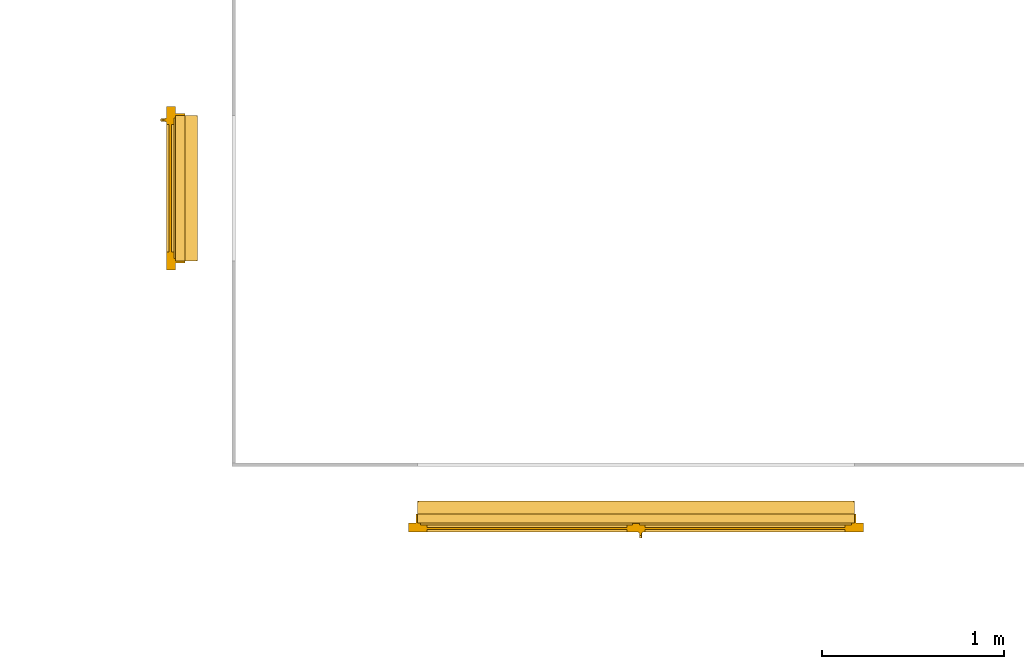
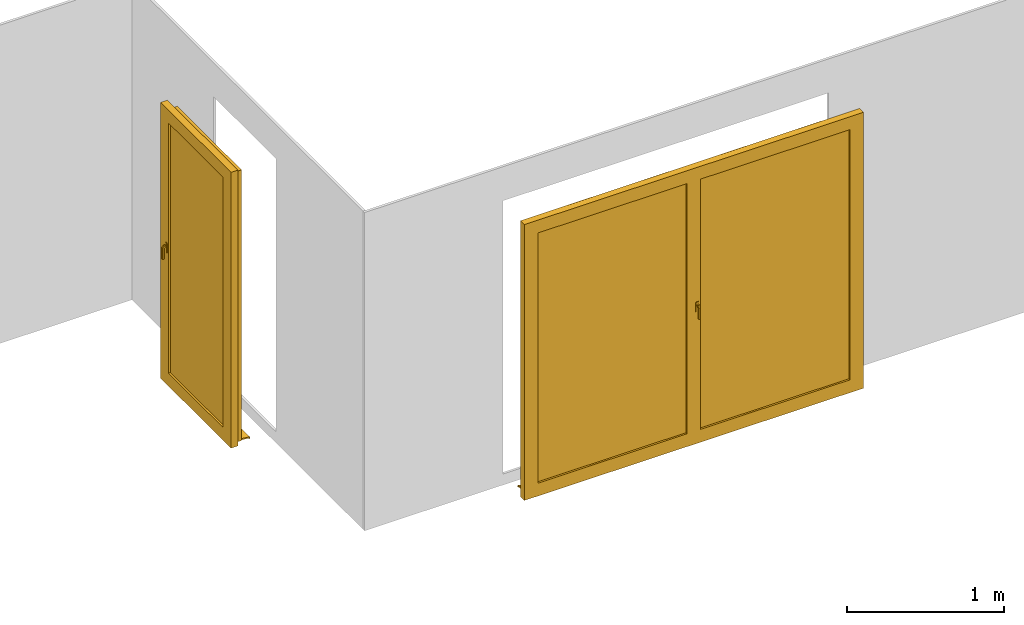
# One storey, part 5 of 6: 2 windows.
"""IFC2X3 building model written with IfcOpenShell, lengths in centimetres."""

from ifc_helpers import new_model, entity, si_unit, converted_unit, derived_unit, direction, frame, origin, place, context, subcontext, project, spatial, faceted_brep, source, transform, mapped, material, material_list, type_object, type_shapes, element, save


model = new_model("IFC2X3")

# Units and contexts
model_context = context("Model", 3, precision=0.001, world=origin(), true_north=direction((6.12303176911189e-17, 1.0)))
body_context = subcontext(model_context, "Body", "Model", "MODEL_VIEW")
ifc_project = project(units=[si_unit("LENGTHUNIT", "METRE", prefix="CENTI"), si_unit("AREAUNIT", "SQUARE_METRE"), si_unit("VOLUMEUNIT", "CUBIC_METRE"), converted_unit("PLANEANGLEUNIT", "DEGREE", entity("IfcRatioMeasure", 0.0174532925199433), si_unit("PLANEANGLEUNIT", "RADIAN"), dimensions=[0, 0, 0, 0, 0, 0, 0]), si_unit("MASSUNIT", "GRAM", prefix="KILO"), derived_unit("MASSDENSITYUNIT", [(si_unit("MASSUNIT", "GRAM", prefix="KILO"), 1), (si_unit("LENGTHUNIT", "METRE"), -3)]), derived_unit("MOMENTOFINERTIAUNIT", [(si_unit("LENGTHUNIT", "METRE"), 4)]), si_unit("TIMEUNIT", "SECOND"), si_unit("FREQUENCYUNIT", "HERTZ"), si_unit("THERMODYNAMICTEMPERATUREUNIT", "DEGREE_CELSIUS"), derived_unit("THERMALTRANSMITTANCEUNIT", [(si_unit("MASSUNIT", "GRAM", prefix="KILO"), 1), (si_unit("THERMODYNAMICTEMPERATUREUNIT", "KELVIN"), -1), (si_unit("TIMEUNIT", "SECOND"), -3)]), derived_unit("VOLUMETRICFLOWRATEUNIT", [(si_unit("LENGTHUNIT", "METRE"), 3), (si_unit("TIMEUNIT", "SECOND"), -1)]), si_unit("ELECTRICCURRENTUNIT", "AMPERE"), si_unit("ELECTRICVOLTAGEUNIT", "VOLT"), si_unit("POWERUNIT", "WATT"), si_unit("FORCEUNIT", "NEWTON", prefix="KILO"), si_unit("ILLUMINANCEUNIT", "LUX"), si_unit("LUMINOUSFLUXUNIT", "LUMEN"), si_unit("LUMINOUSINTENSITYUNIT", "CANDELA"), derived_unit("USERDEFINED", [(si_unit("MASSUNIT", "GRAM", prefix="KILO"), -1), (si_unit("LENGTHUNIT", "METRE"), -2), (si_unit("TIMEUNIT", "SECOND"), 3), (si_unit("LUMINOUSFLUXUNIT", "LUMEN"), 1)]), derived_unit("LINEARVELOCITYUNIT", [(si_unit("LENGTHUNIT", "METRE"), 1), (si_unit("TIMEUNIT", "SECOND"), -1)]), si_unit("PRESSUREUNIT", "PASCAL"), derived_unit("USERDEFINED", [(si_unit("LENGTHUNIT", "METRE"), -2), (si_unit("MASSUNIT", "GRAM", prefix="KILO"), 1), (si_unit("TIMEUNIT", "SECOND"), -2)]), derived_unit("LINEARFORCEUNIT", [(si_unit("MASSUNIT", "GRAM", prefix="KILO"), 1), (si_unit("LENGTHUNIT", "METRE"), 1), (si_unit("TIMEUNIT", "SECOND"), -2), (si_unit("LENGTHUNIT", "METRE"), -1)]), derived_unit("PLANARFORCEUNIT", [(si_unit("MASSUNIT", "GRAM", prefix="KILO"), 1), (si_unit("LENGTHUNIT", "METRE"), 1), (si_unit("TIMEUNIT", "SECOND"), -2), (si_unit("LENGTHUNIT", "METRE"), -2)])], contexts=[model_context])

# Site, building, storey
site_placement = place(None, origin())
site = spatial("IfcSite", under=ifc_project, at=site_placement, Name="Surface", CompositionType="ELEMENT")
building_placement = place(site_placement, origin())
building = spatial("IfcBuilding", under=site, at=building_placement, CompositionType="ELEMENT")
storey_placement = place(building_placement, origin())
storey = spatial("IfcBuildingStorey", under=building, at=storey_placement, Name="1_Rez-de-chaussée", CompositionType="ELEMENT", Elevation=-7.93413063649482e-11)

# Windows
ifc_material_1 = material(Name="Fenêtre - Poignée")
ifc_material_2 = material(Name="Fenêtre - Appui")
ifc_material_3 = material(Name="Fenêtre - Cadre")
ifc_material_4 = material(Name="Fenêtre - Vitrage")
ifc_material_list_1 = material_list([ifc_material_1, ifc_material_2, ifc_material_3, ifc_material_4])
ifc_material_list_2 = material_list([ifc_material_1, ifc_material_3, ifc_material_2, ifc_material_4])
window_style_1 = type_object("IfcWindowStyle", Name="PF 2 Vantaux - Droits blanc:240/210", ConstructionType="NOTDEFINED", OperationType="DOUBLE_PANEL_VERTICAL", ParameterTakesPrecedence=False, Sizeable=False, material=ifc_material_list_2)
shared_shape_1 = source(origin(), body_context, "Body", "Brep", [
    faceted_brep([(128.064600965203, -58.6000000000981, 112.203392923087), (128.203392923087, -58.6000000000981, 112.064600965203), (128.203392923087, -58.6000000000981, 110.933230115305), (128.066769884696, -58.6000000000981, 110.796607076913), (126.933230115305, -58.6000000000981, 110.796607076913), (126.796607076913, -58.6000000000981, 110.933230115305), (126.796607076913, -58.6000000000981, 112.064600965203), (126.935399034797, -58.6000000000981, 112.203392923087), (128.064600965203, -59.891354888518, 112.203392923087), (128.203392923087, -59.8338653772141, 112.064600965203), (128.203392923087, -61.1646009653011, 110.733865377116), (128.203392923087, -61.1646009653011, 102.0), (128.203392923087, -60.0332301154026, 102.0), (128.203392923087, -60.0332301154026, 110.265236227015), (128.203392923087, -59.3652362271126, 110.933230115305), (128.066769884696, -59.3086451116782, 110.796607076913), (126.933230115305, -59.3086451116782, 110.796607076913), (126.796607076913, -59.3652362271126, 110.933230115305), (126.796607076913, -60.0332301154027, 110.265236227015), (126.796607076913, -60.0332301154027, 102.0), (126.796607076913, -61.1646009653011, 102.0), (126.796607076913, -61.1646009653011, 110.733865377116), (126.796607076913, -59.8338653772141, 112.064600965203), (126.935399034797, -59.891354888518, 112.203392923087), (128.064600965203, -61.3033929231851, 110.79135488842), (128.066769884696, -59.8966070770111, 110.20864511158), (126.933230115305, -59.8966070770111, 110.20864511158), (126.935399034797, -61.3033929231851, 110.79135488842), (128.064600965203, -61.3033929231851, 102.0), (126.935399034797, -61.3033929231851, 102.0), (126.933230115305, -59.8966070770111, 102.0), (128.066769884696, -59.8966070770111, 102.0)], [[[0, 1, 2, 3, 4, 5, 6, 7]], [[1, 0, 8, 9]], [[2, 1, 9, 10, 11, 12, 13, 14]], [[3, 2, 14, 15]], [[4, 3, 15, 16]], [[5, 4, 16, 17]], [[6, 5, 17, 18, 19, 20, 21, 22]], [[7, 6, 22, 23]], [[0, 7, 23, 8]], [[9, 8, 24, 10]], [[15, 14, 13, 25]], [[16, 15, 25, 26]], [[17, 16, 26, 18]], [[23, 22, 21, 27]], [[8, 23, 27, 24]], [[28, 29, 20, 19, 30, 31, 12, 11]], [[10, 24, 28, 11]], [[25, 13, 12, 31]], [[26, 25, 31, 30]], [[18, 26, 30, 19]], [[27, 21, 20, 29]], [[24, 27, 29, 28]]]),
    faceted_brep([(128.200000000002, -58.6000000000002, 114.0), (126.8, -58.6000000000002, 114.0), (126.3, -58.6000000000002, 113.5), (126.3, -58.6000000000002, 106.499999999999), (126.799999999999, -58.6000000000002, 106.0), (128.200000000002, -58.6000000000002, 106.0), (128.7, -58.6000000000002, 106.499999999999), (128.7, -58.6000000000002, 113.5), (128.200000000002, -58.0, 114.0), (128.7, -58.0, 113.5), (128.7, -58.0, 106.499999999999), (128.200000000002, -58.0, 106.0), (126.799999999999, -58.0, 106.0), (126.3, -58.0, 106.499999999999), (126.3, -58.0, 113.5), (126.8, -58.0, 114.0)], [[[0, 1, 2, 3, 4, 5, 6, 7]], [[8, 9, 10, 11, 12, 13, 14, 15]], [[1, 0, 8, 15]], [[2, 1, 15, 14]], [[3, 2, 14, 13]], [[4, 3, 13, 12]], [[5, 4, 12, 11]], [[6, 5, 11, 10]], [[7, 6, 10, 9]], [[0, 7, 9, 8]]]),
    faceted_brep([(245.0, -40.9971122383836, 3.0792795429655), (245.0, -49.4999999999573, 3.97296905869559), (245.0, -49.4999999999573, 5.0), (245.0, -50.0, 5.0), (245.0, -50.0, 3.49999999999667), (245.0, -41.4971122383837, 2.60631048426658), (245.0, -41.4971122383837, 2.02401141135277), (245.0, -40.9971122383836, 1.97145929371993), (5.0, -40.9971122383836, 3.0792795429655), (5.0, -40.9971122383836, 1.97145929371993), (5.0, -41.4971122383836, 2.02401141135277), (5.0, -41.4971122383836, 2.60631048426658), (5.0, -50.0, 3.49999999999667), (5.0, -50.0, 5.0), (5.0, -49.4999999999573, 5.0), (5.0, -49.4999999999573, 3.97296905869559)], [[[0, 1, 2, 3, 4, 5, 6, 7]], [[8, 9, 10, 11, 12, 13, 14, 15]], [[1, 0, 8, 15]], [[2, 1, 15, 14]], [[3, 2, 14, 13]], [[4, 3, 13, 12]], [[5, 4, 12, 11]], [[6, 5, 11, 10]], [[7, 6, 10, 9]], [[0, 7, 9, 8]]]),
    faceted_brep([(5.0, -40.9971122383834, 3.22187206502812), (5.0, -40.9971122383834, 3.0792795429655), (5.0, -49.4999999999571, 3.97296905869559), (5.0, -49.4999999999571, 4.47572319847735), (5.0, -41.3553008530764, 3.61968082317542), (5.0, -41.0998543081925, 3.48952430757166), (5.50000000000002, -49.4999999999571, 4.47572319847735), (5.50000000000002, -49.4999999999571, 3.97296905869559), (5.50000000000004, -40.9971122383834, 3.0792795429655), (5.50000000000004, -40.9971122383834, 3.22187206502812), (5.50000000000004, -41.0998543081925, 3.48952430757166), (5.50000000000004, -41.3553008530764, 3.61968082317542)], [[[0, 1, 2, 3, 4, 5]], [[6, 7, 8, 9, 10, 11]], [[2, 1, 8, 7]], [[3, 2, 7, 6]], [[4, 3, 6, 11]], [[4, 11, 10, 5]], [[10, 9, 0, 5]], [[1, 0, 9, 8]]]),
    faceted_brep([(244.5, -40.9971122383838, 3.22187206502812), (244.5, -40.9971122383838, 3.0792795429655), (244.5, -49.4999999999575, 3.97296905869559), (244.5, -49.4999999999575, 4.47572319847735), (244.5, -41.3553008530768, 3.61968082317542), (244.5, -41.0998543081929, 3.48952430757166), (245.0, -49.4999999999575, 4.47572319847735), (245.0, -49.4999999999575, 3.97296905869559), (245.0, -40.9971122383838, 3.0792795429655), (245.0, -40.9971122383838, 3.22187206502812), (245.0, -41.0998543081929, 3.48952430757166), (245.0, -41.3553008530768, 3.61968082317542)], [[[0, 1, 2, 3, 4, 5]], [[6, 7, 8, 9, 10, 11]], [[2, 1, 8, 7]], [[3, 2, 7, 6]], [[4, 3, 6, 11]], [[4, 11, 10, 5]], [[10, 9, 0, 5]], [[1, 0, 9, 8]]]),
    faceted_brep([(125.0, -54.0, 213.5), (125.0, -58.0, 213.5), (125.0, -58.0, 8.50000000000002), (125.0, -54.0, 8.50000000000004), (5.0, -58.0, 8.50000000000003), (5.0, -54.0, 8.50000000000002), (5.0, -58.0, 213.5), (10.0, -58.0, 13.5), (10.0, -58.0, 208.5), (120.0, -58.0, 208.5), (120.0, -58.0, 13.5), (5.0, -54.0, 213.5), (120.0, -54.0, 13.5), (120.0, -54.0, 208.5), (10.0, -54.0, 208.5), (10.0, -54.0, 13.5)], [[[0, 1, 2, 3]], [[3, 2, 4, 5]], [[2, 1, 6, 4], [7, 8, 9, 10]], [[5, 4, 6, 11]], [[5, 11, 0, 3], [12, 13, 14, 15]], [[9, 13, 12, 10]], [[10, 12, 15, 7]], [[7, 15, 14, 8]], [[11, 6, 1, 0]], [[8, 14, 13, 9]]]),
    faceted_brep([(130.0, -55.4000000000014, 13.5), (130.0, -55.4000000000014, 208.5), (240.0, -55.4000000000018, 208.5), (240.0, -55.4000000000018, 13.5), (130.0, -56.6000000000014, 13.5), (130.0, -56.6000000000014, 208.5), (240.0, -56.6000000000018, 208.5), (240.0, -56.6000000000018, 13.5)], [[[0, 1, 2, 3]], [[1, 0, 4, 5]], [[3, 2, 6, 7]], [[0, 3, 7, 4]], [[2, 1, 5, 6]], [[4, 7, 6, 5]]]),
    faceted_brep([(120.0, -55.4000000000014, 13.5), (120.0, -55.4000000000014, 208.5), (120.0, -56.6000000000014, 208.5), (120.0, -56.6000000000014, 13.5), (10.0, -55.400000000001, 13.5), (10.0, -56.600000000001, 13.5), (10.0, -55.400000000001, 208.5), (10.0, -56.600000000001, 208.5)], [[[0, 1, 2, 3]], [[4, 0, 3, 5]], [[6, 4, 5, 7]], [[7, 5, 3, 2]], [[1, 6, 7, 2]], [[6, 1, 0, 4]]]),
    faceted_brep([(130.0, -54.0, 208.5), (130.0, -58.0, 208.5), (130.0, -58.0, 13.5), (130.0, -54.0, 13.5), (240.0, -58.0, 13.5000000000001), (240.0, -54.0, 13.5), (240.0, -58.0, 208.5), (245.0, -58.0, 8.50000000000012), (245.0, -58.0, 213.5), (125.0, -58.0, 213.5), (125.0, -58.0, 8.5000000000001), (240.0, -54.0, 208.5), (125.0, -54.0, 8.5000000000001), (125.0, -54.0, 213.5), (245.0, -54.0, 213.5), (245.0, -54.0, 8.5000000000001)], [[[0, 1, 2, 3]], [[3, 2, 4, 5]], [[2, 1, 6, 4], [7, 8, 9, 10]], [[5, 4, 6, 11]], [[5, 11, 0, 3], [12, 13, 14, 15]], [[9, 13, 12, 10]], [[10, 12, 15, 7]], [[7, 15, 14, 8]], [[11, 6, 1, 0]], [[8, 14, 13, 9]]], outer=[[True], [True], [False, True], [True], [False, True], [True], [True], [True], [True], [True]]),
    faceted_brep([(0.0, -58.0, 3.50000000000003), (0.0, -53.0, 3.50000000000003), (5.0, -53.0, 3.50000000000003), (5.0, -50.0, 3.50000000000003), (245.0, -50.0, 3.50000000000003), (245.0, -53.0, 3.50000000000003), (250.0, -53.0, 3.50000000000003), (250.0, -58.0, 3.50000000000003), (0.0, -58.0, 218.5), (0.0, -53.0, 218.5), (250.0, -53.0, 218.5), (245.0, -53.0, 7.43761424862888), (5.0, -53.0, 7.43761424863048), (6.49999999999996, -53.0, 212.0), (6.49999999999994, -53.0, 10.0), (243.5, -53.0, 10.0), (243.5, -53.0, 212.0), (5.0, -48.0, 6.0978682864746), (5.0, -48.0, 4.50000000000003), (5.0, -49.0, 4.50000000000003), (5.0, -49.0, 5.0), (5.0, -50.0, 5.0), (245.0, -50.0, 5.0), (245.0, -49.0, 5.0), (245.0, -49.0, 4.50000000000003), (245.0, -48.0, 4.50000000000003), (245.0, -48.0, 6.0978682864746), (250.0, -58.0, 218.5), (245.0, -58.0, 213.5), (245.0, -58.0, 8.50000000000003), (5.0, -58.0, 8.50000000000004), (5.0, -58.0, 213.5), (6.49999999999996, -54.0, 212.0), (6.49999999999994, -54.0, 10.0), (243.5, -54.0, 10.0), (243.5, -54.0, 212.0), (245.0, -54.0, 213.5), (5.0, -54.0, 213.5), (5.0, -54.0, 8.50000000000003), (245.0, -54.0, 8.50000000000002)], [[[0, 1, 2, 3, 4, 5, 6, 7]], [[1, 0, 8, 9]], [[1, 9, 10, 6, 5, 11, 12, 2], [13, 14, 15, 16]], [[12, 17, 18, 19, 20, 21, 3, 2]], [[3, 21, 22, 4]], [[4, 22, 23, 24, 25, 26, 11, 5]], [[6, 10, 27, 7]], [[0, 7, 27, 8], [28, 29, 30, 31]], [[13, 32, 33, 14]], [[33, 34, 15, 14]], [[35, 16, 15, 34]], [[17, 12, 11, 26]], [[36, 37, 38, 39], [32, 35, 34, 33]], [[38, 37, 31, 30]], [[30, 29, 39, 38]], [[28, 36, 39, 29]], [[18, 17, 26, 25]], [[19, 18, 25, 24]], [[20, 19, 24, 23]], [[21, 20, 23, 22]], [[13, 16, 35, 32]], [[37, 36, 28, 31]], [[10, 9, 8, 27]]]),
    faceted_brep([(5.0, -48.0, 3.50000000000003), (5.0, -53.0, 3.50000000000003), (4.0, -53.0, 3.50000000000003), (4.0, -48.0, 3.50000000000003), (5.0, -48.0, 213.5), (5.0, -53.0, 213.5), (245.0, -53.0, 213.5), (245.0, -53.0, 3.5), (246.0, -53.0, 3.50000000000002), (246.0, -53.0, 214.5), (4.0, -53.0, 214.5), (4.0, -48.0, 214.5), (246.0, -48.0, 214.5), (246.0, -48.0, 3.5), (245.0, -48.0, 3.50000000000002), (245.0, -48.0, 213.5)], [[[0, 1, 2, 3]], [[1, 0, 4, 5]], [[2, 1, 5, 6, 7, 8, 9, 10]], [[3, 2, 10, 11]], [[0, 3, 11, 12, 13, 14, 15, 4]], [[6, 15, 14, 7]], [[14, 13, 8, 7]], [[12, 9, 8, 13]], [[5, 4, 15, 6]], [[11, 10, 9, 12]]]),
    faceted_brep([(127.0, -53.2000000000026, 212.0), (123.0, -53.2000000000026, 212.0), (123.0, -54.0, 212.0), (127.0, -54.0, 212.0), (127.0, -53.2000000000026, 10.0), (127.0, -54.0, 10.0), (123.0, -54.0, 10.0), (123.0, -53.2000000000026, 10.0)], [[[0, 1, 2, 3]], [[4, 5, 6, 7]], [[1, 0, 4, 7]], [[2, 1, 7, 6]], [[3, 2, 6, 5]], [[0, 3, 5, 4]]]),
])
type_shapes(window_style_1, [shared_shape_1])
window_1_placement = place(storey_placement, frame((-1295.17726031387, 743.992317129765, 0.0)))
element("IfcWindow", 1, at=window_1_placement, inside=storey, type_object=window_style_1, material=ifc_material_list_1, Name="PF 2 Vantaux - Droits blanc:240/210", ObjectType="PF 2 Vantaux - Droits blanc:240/210", OverallHeight=221.5, OverallWidth=250.0, context=body_context, shape_type="MappedRepresentation", body=[
    mapped(shared_shape_1, transform((0.0, 0.0, 0.0), scale=1.0)),
])
ifc_material_list_3 = material_list([ifc_material_1, ifc_material_2, ifc_material_4, ifc_material_3])
ifc_material_list_4 = material_list([ifc_material_1, ifc_material_2, ifc_material_3, ifc_material_4])
window_style_2 = type_object("IfcWindowStyle", Name="PF 1 Vantail - Droite blanc:80/210", ConstructionType="NOTDEFINED", OperationType="SINGLE_PANEL", ParameterTakesPrecedence=False, Sizeable=False, material=ifc_material_list_4)
shared_shape_2 = source(origin(), body_context, "Body", "Brep", [
    faceted_brep([(8.06460096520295, -58.600000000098, 112.203392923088), (8.20339292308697, -58.600000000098, 112.064600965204), (8.20339292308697, -58.600000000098, 110.933230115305), (8.06676988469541, -58.600000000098, 110.796607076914), (6.93323011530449, -58.600000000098, 110.796607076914), (6.79660707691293, -58.600000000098, 110.933230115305), (6.79660707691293, -58.600000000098, 112.064600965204), (6.93539903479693, -58.600000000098, 112.203392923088), (8.06460096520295, -59.8913548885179, 112.203392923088), (8.20339292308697, -59.833865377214, 112.064600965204), (8.20339292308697, -61.164600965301, 110.733865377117), (8.20339292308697, -61.164600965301, 102.0), (8.20339292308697, -60.0332301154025, 102.0), (8.20339292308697, -60.0332301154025, 110.265236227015), (8.20339292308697, -59.3652362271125, 110.933230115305), (8.06676988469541, -59.3086451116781, 110.796607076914), (6.93323011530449, -59.3086451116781, 110.796607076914), (6.79660707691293, -59.3652362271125, 110.933230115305), (6.79660707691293, -60.0332301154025, 110.265236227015), (6.79660707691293, -60.0332301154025, 102.0), (6.79660707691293, -61.164600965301, 102.0), (6.79660707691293, -61.164600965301, 110.733865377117), (6.79660707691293, -59.833865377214, 112.064600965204), (6.93539903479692, -59.8913548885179, 112.203392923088), (8.06460096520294, -61.303392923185, 110.791354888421), (8.06676988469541, -59.8966070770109, 110.208645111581), (6.93323011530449, -59.8966070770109, 110.208645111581), (6.93539903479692, -61.303392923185, 110.791354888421), (8.06460096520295, -61.303392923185, 102.0), (6.93539903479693, -61.303392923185, 102.0), (6.93323011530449, -59.8966070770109, 102.0), (8.06676988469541, -59.8966070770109, 102.0)], [[[0, 1, 2, 3, 4, 5, 6, 7]], [[1, 0, 8, 9]], [[2, 1, 9, 10, 11, 12, 13, 14]], [[3, 2, 14, 15]], [[4, 3, 15, 16]], [[5, 4, 16, 17]], [[6, 5, 17, 18, 19, 20, 21, 22]], [[7, 6, 22, 23]], [[0, 7, 23, 8]], [[9, 8, 24, 10]], [[15, 14, 13, 25]], [[16, 15, 25, 26]], [[17, 16, 26, 18]], [[23, 22, 21, 27]], [[8, 23, 27, 24]], [[28, 29, 20, 19, 30, 31, 12, 11]], [[10, 24, 28, 11]], [[25, 13, 12, 31]], [[26, 25, 31, 30]], [[18, 26, 30, 19]], [[27, 21, 20, 29]], [[24, 27, 29, 28]]]),
    faceted_brep([(8.20000000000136, -58.6000000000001, 114.0), (6.79999999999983, -58.6000000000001, 114.0), (6.29999999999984, -58.6000000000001, 113.500000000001), (6.29999999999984, -58.6000000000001, 106.499999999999), (6.79999999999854, -58.6000000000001, 106.0), (8.20000000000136, -58.6000000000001, 106.0), (8.69999999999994, -58.6000000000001, 106.499999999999), (8.69999999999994, -58.6000000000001, 113.500000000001), (8.20000000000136, -58.0, 114.0), (8.69999999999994, -58.0, 113.500000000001), (8.69999999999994, -58.0, 106.499999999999), (8.20000000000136, -58.0, 106.0), (6.79999999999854, -58.0, 106.0), (6.29999999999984, -58.0, 106.499999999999), (6.29999999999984, -58.0, 113.500000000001), (6.79999999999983, -58.0, 114.0)], [[[0, 1, 2, 3, 4, 5, 6, 7]], [[8, 9, 10, 11, 12, 13, 14, 15]], [[1, 0, 8, 15]], [[2, 1, 15, 14]], [[3, 2, 14, 13]], [[4, 3, 13, 12]], [[5, 4, 12, 11]], [[6, 5, 11, 10]], [[7, 6, 10, 9]], [[0, 7, 9, 8]]]),
    faceted_brep([(85.0, -40.9971122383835, 3.07927954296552), (85.0, -49.4999999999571, 3.97296905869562), (85.0, -49.4999999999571, 5.0), (85.0, -50.0, 5.0), (85.0, -50.0, 3.4999999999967), (85.0, -41.4971122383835, 2.60631048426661), (85.0, -41.4971122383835, 2.0240114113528), (85.0, -40.9971122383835, 1.97145929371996), (5.0, -40.9971122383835, 3.07927954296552), (5.0, -40.9971122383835, 1.97145929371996), (5.0, -41.4971122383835, 2.0240114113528), (5.0, -41.4971122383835, 2.60631048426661), (5.0, -50.0, 3.4999999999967), (5.0, -50.0, 5.0), (5.0, -49.4999999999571, 5.0), (5.0, -49.4999999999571, 3.97296905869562)], [[[0, 1, 2, 3, 4, 5, 6, 7]], [[8, 9, 10, 11, 12, 13, 14, 15]], [[1, 0, 8, 15]], [[2, 1, 15, 14]], [[3, 2, 14, 13]], [[4, 3, 13, 12]], [[5, 4, 12, 11]], [[6, 5, 11, 10]], [[7, 6, 10, 9]], [[0, 7, 9, 8]]]),
    faceted_brep([(5.0, -40.9971122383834, 3.22187206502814), (5.0, -40.9971122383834, 3.07927954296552), (5.0, -49.4999999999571, 3.97296905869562), (5.0, -49.4999999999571, 4.47572319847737), (5.0, -41.3553008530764, 3.61968082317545), (5.0, -41.0998543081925, 3.48952430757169), (5.49999999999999, -49.4999999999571, 4.47572319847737), (5.49999999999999, -49.4999999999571, 3.97296905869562), (5.50000000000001, -40.9971122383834, 3.07927954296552), (5.50000000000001, -40.9971122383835, 3.22187206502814), (5.50000000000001, -41.0998543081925, 3.48952430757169), (5.50000000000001, -41.3553008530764, 3.61968082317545)], [[[0, 1, 2, 3, 4, 5]], [[6, 7, 8, 9, 10, 11]], [[2, 1, 8, 7]], [[3, 2, 7, 6]], [[4, 3, 6, 11]], [[4, 11, 10, 5]], [[10, 9, 0, 5]], [[1, 0, 9, 8]]]),
    faceted_brep([(84.5, -40.9971122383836, 3.22187206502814), (84.5, -40.9971122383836, 3.07927954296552), (84.5, -49.4999999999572, 3.97296905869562), (84.5, -49.4999999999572, 4.47572319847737), (84.5, -41.3553008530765, 3.61968082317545), (84.5, -41.0998543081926, 3.48952430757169), (85.0, -49.4999999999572, 4.47572319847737), (85.0, -49.4999999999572, 3.97296905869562), (85.0, -40.9971122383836, 3.07927954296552), (85.0, -40.9971122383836, 3.22187206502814), (85.0, -41.0998543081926, 3.48952430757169), (85.0, -41.3553008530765, 3.61968082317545)], [[[0, 1, 2, 3, 4, 5]], [[6, 7, 8, 9, 10, 11]], [[2, 1, 8, 7]], [[3, 2, 7, 6]], [[4, 3, 6, 11]], [[4, 11, 10, 5]], [[10, 9, 0, 5]], [[1, 0, 9, 8]]]),
    faceted_brep([(10.0, -55.4000000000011, 13.5), (10.0, -55.4000000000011, 208.5), (80.0, -55.4000000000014, 208.5), (80.0, -55.4000000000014, 13.5), (10.0, -56.6000000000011, 13.5), (10.0, -56.6000000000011, 208.5), (80.0, -56.6000000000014, 208.5), (80.0, -56.6000000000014, 13.5)], [[[0, 1, 2, 3]], [[1, 0, 4, 5]], [[3, 2, 6, 7]], [[0, 3, 7, 4]], [[4, 7, 6, 5]], [[2, 1, 5, 6]]]),
    faceted_brep([(10.0, -54.0, 208.5), (10.0, -58.0, 208.5), (10.0, -58.0, 13.5), (10.0, -54.0, 13.5), (80.0, -58.0, 13.5), (80.0, -54.0, 13.5), (80.0, -58.0, 208.5), (85.0, -58.0, 8.50000000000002), (85.0, -58.0, 213.5), (5.0, -58.0, 213.5), (5.0, -58.0, 8.50000000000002), (80.0, -54.0, 208.5), (5.0, -54.0, 8.50000000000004), (5.0, -54.0, 213.5), (85.0, -54.0, 213.5), (85.0, -54.0, 8.50000000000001)], [[[0, 1, 2, 3]], [[3, 2, 4, 5]], [[2, 1, 6, 4], [7, 8, 9, 10]], [[5, 4, 6, 11]], [[5, 11, 0, 3], [12, 13, 14, 15]], [[9, 13, 12, 10]], [[10, 12, 15, 7]], [[7, 15, 14, 8]], [[11, 6, 1, 0]], [[8, 14, 13, 9]]], outer=[[True], [True], [False, True], [True], [False, True], [True], [True], [True], [True], [True]]),
    faceted_brep([(0.0, -58.0, 3.5), (0.0, -53.0, 3.5), (5.0, -53.0, 3.5), (5.0, -50.0, 3.5), (85.0, -50.0, 3.5), (85.0, -53.0, 3.5), (90.0, -53.0, 3.5), (90.0, -58.0, 3.5), (0.0, -58.0, 218.5), (0.0, -53.0, 218.5), (90.0, -53.0, 218.5), (85.0, -53.0, 7.43761424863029), (5.0, -53.0, 7.43761424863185), (6.49999999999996, -53.0, 212.0), (6.49999999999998, -53.0, 10.0), (83.5, -53.0, 10.0), (83.4999999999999, -53.0, 212.0), (5.0, -48.0, 6.09786828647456), (5.0, -48.0, 4.50000000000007), (5.0, -49.0, 4.50000000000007), (5.0, -49.0, 5.0), (5.0, -50.0, 5.0), (85.0, -50.0, 5.0), (85.0, -49.0, 5.0), (85.0, -49.0, 4.50000000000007), (85.0, -48.0, 4.50000000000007), (85.0, -48.0, 6.09786828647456), (90.0, -58.0, 218.5), (85.0, -58.0, 213.5), (85.0, -58.0, 8.5), (5.0, -58.0, 8.50000000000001), (5.0, -58.0, 213.5), (6.49999999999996, -54.0, 212.0), (6.49999999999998, -54.0, 10.0), (83.5, -54.0, 10.0), (83.5, -54.0, 212.0), (85.0, -54.0, 213.5), (5.0, -54.0, 213.5), (5.0, -54.0, 8.5), (85.0, -54.0, 8.49999999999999)], [[[0, 1, 2, 3, 4, 5, 6, 7]], [[1, 0, 8, 9]], [[1, 9, 10, 6, 5, 11, 12, 2], [13, 14, 15, 16]], [[12, 17, 18, 19, 20, 21, 3, 2]], [[3, 21, 22, 4]], [[4, 22, 23, 24, 25, 26, 11, 5]], [[6, 10, 27, 7]], [[0, 7, 27, 8], [28, 29, 30, 31]], [[13, 32, 33, 14]], [[33, 34, 15, 14]], [[35, 16, 15, 34]], [[17, 12, 11, 26]], [[36, 37, 38, 39], [32, 35, 34, 33]], [[38, 37, 31, 30]], [[30, 29, 39, 38]], [[28, 36, 39, 29]], [[18, 17, 26, 25]], [[19, 18, 25, 24]], [[20, 19, 24, 23]], [[21, 20, 23, 22]], [[13, 16, 35, 32]], [[37, 36, 28, 31]], [[10, 9, 8, 27]]]),
    faceted_brep([(5.0, -48.0, 3.5), (5.0, -53.0, 3.5), (4.0, -53.0, 3.5), (4.0, -48.0, 3.5), (5.0, -48.0, 213.5), (5.0, -53.0, 213.5), (85.0, -53.0, 213.5), (85.0, -53.0, 3.49999999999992), (86.0, -53.0, 3.49999999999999), (86.0, -53.0, 214.5), (4.0, -53.0, 214.5), (4.0, -48.0, 214.5), (86.0, -48.0, 214.5), (86.0, -48.0, 3.49999999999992), (85.0, -48.0, 3.49999999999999), (85.0, -48.0, 213.5)], [[[0, 1, 2, 3]], [[1, 0, 4, 5]], [[2, 1, 5, 6, 7, 8, 9, 10]], [[3, 2, 10, 11]], [[0, 3, 11, 12, 13, 14, 15, 4]], [[6, 15, 14, 7]], [[14, 13, 8, 7]], [[12, 9, 8, 13]], [[5, 4, 15, 6]], [[11, 10, 9, 12]]]),
])
type_shapes(window_style_2, [shared_shape_2])
window_2_placement = place(storey_placement, frame((-1370.17726031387, 919.992317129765, 0.0), z_axis=(0.0, 0.0, 1.0), x_axis=(0.0, -1.0, 0.0)))
element("IfcWindow", 2, at=window_2_placement, inside=storey, type_object=window_style_2, material=ifc_material_list_3, Name="PF 1 Vantail - Droite blanc:80/210", ObjectType="PF 1 Vantail - Droite blanc:80/210", OverallHeight=221.5, OverallWidth=90.0, context=body_context, shape_type="MappedRepresentation", body=[
    mapped(shared_shape_2, transform((0.0, 0.0, 0.0), scale=1.0)),
])

save(model, "model.ifc")
